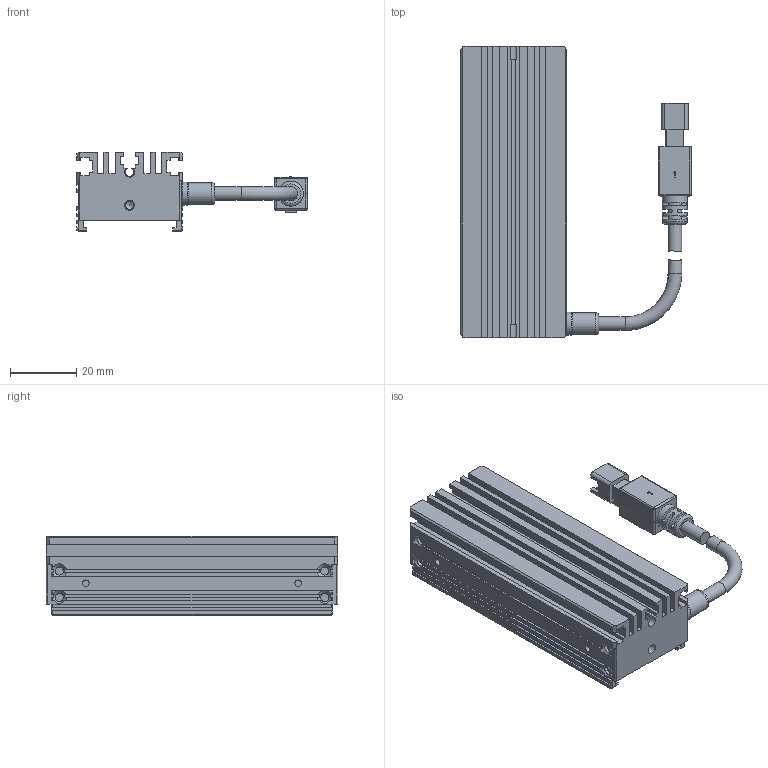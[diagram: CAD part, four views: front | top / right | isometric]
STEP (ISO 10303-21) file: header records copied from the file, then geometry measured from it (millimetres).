
FILE_DESCRIPTION (( 'STEP AP203' ), '1' );
FILE_NAME ('OPT-ULI8832W-UV-V1.0尨砩芞.STEP', '2024-12-11T03:22:08', ( '' ), ( '' ), 'SwSTEP 2.0', 'SolidWorks 2016', '' );
FILE_SCHEMA (( 'CONFIG_CONTROL_DESIGN' ));
Length unit declared in the file: millimetre
Products named in the file (1): OPT-ULI8832W-UV-V1.0尨砩芞
Bounding box: 69.6 x 88 x 24 mm (x, y, z)
Volume: 50278.9 mm3; surface area: 25714.7 mm2
Topology: 6 solids, 14 shells, 596 faces, 1548 edges, 991 vertices
Faces by surface type: plane 404, cylinder 135, cone 28, bspline 21, torus 8
Full cylindrical faces by diameter (mm): 1.1 x2, 1.4 x2, 1.6 x7, 2 x11, 2.4 x7, 2.5 x2, 3 x2, 3.5 x1, 4.1 x4, 6.5 x1, 7 x1, 7.5 x1
Entity records: 18289 total; most frequent: CARTESIAN_POINT 4228, ORIENTED_EDGE 2892, DIRECTION 2785, EDGE_CURVE 1446, LINE 1003, VECTOR 1003, VERTEX_POINT 962, AXIS2_PLACEMENT_3D 891
